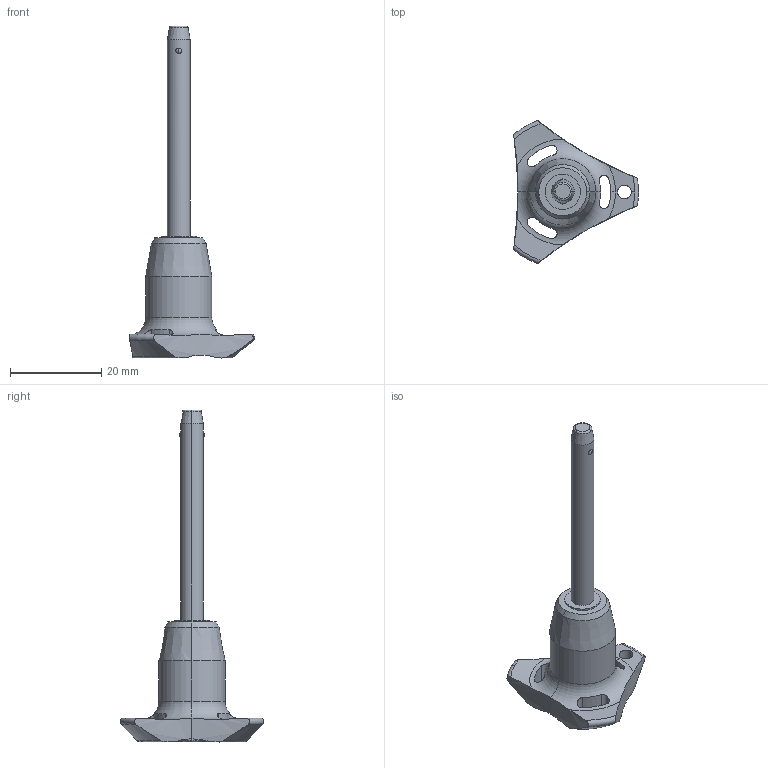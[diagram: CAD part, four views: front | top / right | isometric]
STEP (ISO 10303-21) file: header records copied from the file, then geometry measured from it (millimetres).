
FILE_DESCRIPTION (( 'STEP AP203' ), '1' );
FILE_NAME ('QR1714.M05-040-S.step', '2025-11-12T09:55:20', ( '' ), ( '' ), 'SwSTEP 2.0', 'SolidWorks 2019', '' );
FILE_SCHEMA (( 'CONFIG_CONTROL_DESIGN' ));
Length unit declared in the file: millimetre
Products named in the file (1): QR1714.M05-040-S
Bounding box: 27.4 x 31.31 x 72.7 mm (x, y, z)
Volume: 5653.4 mm3; surface area: 3136.6 mm2
Topology: 1 solids, 1 shells, 66 faces, 181 edges, 115 vertices
Faces by surface type: cylinder 30, cone 14, torus 12, sphere 6, plane 4
Entity records: 2693 total; most frequent: CARTESIAN_POINT 981, ORIENTED_EDGE 362, DIRECTION 332, EDGE_CURVE 181, AXIS2_PLACEMENT_3D 148, VERTEX_POINT 115, CIRCLE 81, EDGE_LOOP 72
